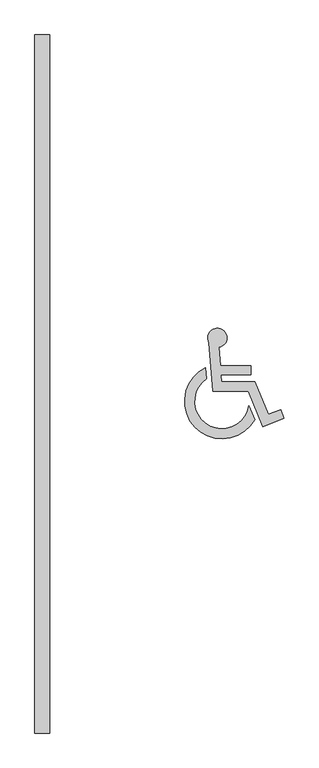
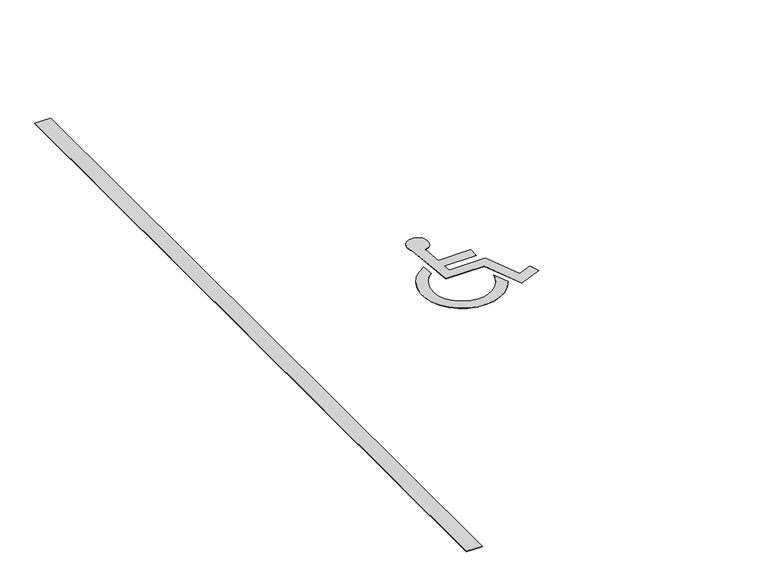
"""IFC4 building model written with IfcOpenShell, lengths in millimetres: proxy geometry, Place de parking - Handicapé : 4.8m x 2.4m - 90°."""

from ifc_helpers import new_model, si_unit, point, frame_2d, origin, origin_with_axes, place, context, project, spatial, polyline, circle_curve, trimmed, segment, composite_curve, outline, extrude, source, transform, mapped, element, save


def parking_649fe8cd(model_context):
    return source(origin(), model_context, "Body", "SweptSolid", [
        extrude(outline(composite_curve([segment(trimmed(circle_curve(frame_2d((1205.6043949, -2082.9336781)), 66.0449209), [point((1148.8024065, -2116.6303497))], [point((1216.5386145, -2148.0671903))], False, "CARTESIAN"), True, "CONTINUOUS"), segment(polyline([(1216.5386145, -2148.0671903), (1226.1998714, -2274.8166249), (1435.2428621, -2274.8166249), (1435.2428621, -2336.5092718), (1230.9022869, -2336.5092718), (1234.4970725, -2383.6705315), (1464.8390947, -2383.6705315), (1556.6547828, -2609.469024), (1641.9646244, -2575.3597728), (1663.1291965, -2637.0631972), (1520.7002448, -2694.0102599), (1420.9999699, -2448.8215315), (1174.1231059, -2448.8215315), (1148.8024065, -2116.6303497)]), True, "CONTINUOUS")], self_intersect=False)), origin_with_axes(), (0.0, 0.0, 1.0), 1.5875),
        extrude(outline(composite_curve([segment(polyline([(1124.563134, -2288.520595), (1130.347523, -2364.4080328)]), True, "CONTINUOUS"), segment(trimmed(circle_curve(frame_2d((1237.7222674, -2519.5682027)), 188.6902596), [point((1130.347523, -2364.4080328))], [point((1424.0788255, -2549.1527812))], True, "CARTESIAN"), True, "CONTINUOUS"), segment(polyline([(1424.0788255, -2549.1527812), (1462.7534435, -2644.2636565)]), True, "CONTINUOUS"), segment(trimmed(circle_curve(frame_2d((1237.7222674, -2519.5682027)), 257.2702596), [point((1462.7534435, -2644.2636565))], [point((1124.563134, -2288.520595))], False, "CARTESIAN"), True, "CONTINUOUS")], self_intersect=False)), origin_with_axes(), (0.0, 0.0, 1.0), 1.5875),
        extrude(outline(polyline([(-50.8, 0.0), (50.8, 0.0), (50.8, -4800.0), (-50.8, -4800.0), (-50.8, 0.0)])), origin_with_axes(), (0.0, 0.0, 1.0), 3.175),
    ])


if __name__ == "__main__":
    model = new_model("IFC4")
    model_context = context("Model", 3, world=origin())
    ifc_project = project(units=[si_unit("LENGTHUNIT", "METRE", prefix="MILLI")], contexts=[model_context])
    site = spatial("IfcSite", under=ifc_project)
    building = spatial("IfcBuilding", under=site)
    placement = place(None, origin())
    parking_shape = parking_649fe8cd(model_context)
    element("IfcBuildingElementProxy", 1, Name="Place de parking - Handicapé : 4.8m x 2.4m - 90°", ObjectType="Place de parking - Handicapé : 4.8m x 2.4m - 90°", at=placement, inside=building, context=model_context, shape_type="MappedRepresentation", body=[
        mapped(parking_shape, transform((0.0, 0.0, 0.0), x_axis=(1.0, 0.0, 0.0), y_axis=(0.0, 1.0, 0.0), z_axis=(0.0, 0.0, 1.0))),
    ])
    save(model, "model.ifc")
